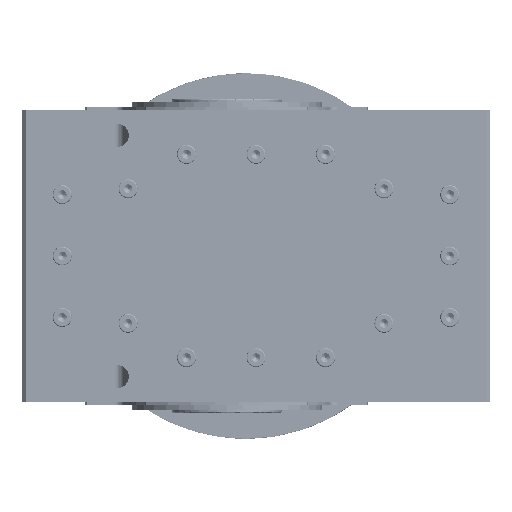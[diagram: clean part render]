
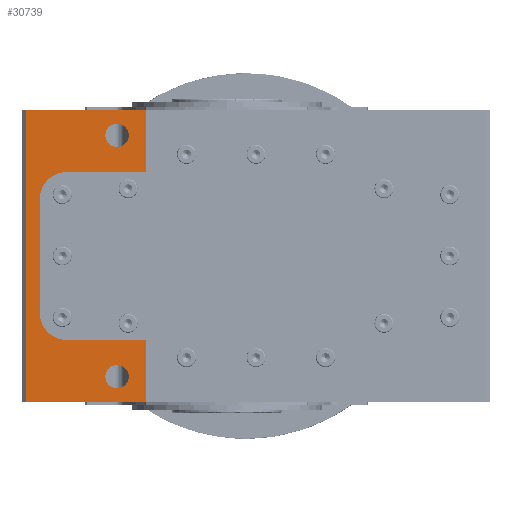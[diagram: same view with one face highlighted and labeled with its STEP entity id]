
A CAD part, left-side view. The second image highlights one B-rep face of the part: STEP entity #30739.
In plain terms, the highlighted planar face has unit normal (-1, 0, 0).
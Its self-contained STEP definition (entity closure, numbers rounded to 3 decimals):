
#18703 = AXIS2_PLACEMENT_3D ( 'NONE', #209336, #209356, #209368 ) ;
#18811 = AXIS2_PLACEMENT_3D ( 'NONE', #208940, #208960, #208965 ) ;
#18821 = AXIS2_PLACEMENT_3D ( 'NONE', #209389, #209398, #209391 ) ;
#18891 = AXIS2_PLACEMENT_3D ( 'NONE', #208956, #208932, #208935 ) ;
#20768 = CARTESIAN_POINT ( 'NONE',  ( -112., 140., 57.5 ) ) ;
#20770 = DIRECTION ( 'NONE',  ( 0., -1., 0. ) ) ;
#22032 = VERTEX_POINT ( 'NONE', #149736 ) ;
#22128 = VERTEX_POINT ( 'NONE', #149752 ) ;
#22141 = VERTEX_POINT ( 'NONE', #149721 ) ;
#22215 = VERTEX_POINT ( 'NONE', #149858 ) ;
#25458 = ORIENTED_EDGE ( 'NONE', *, *, #135957, .T. ) ;
#25489 = ORIENTED_EDGE ( 'NONE', *, *, #136981, .T. ) ;
#25497 = ORIENTED_EDGE ( 'NONE', *, *, #137066, .T. ) ;
#25502 = ORIENTED_EDGE ( 'NONE', *, *, #189936, .T. ) ;
#25510 = ORIENTED_EDGE ( 'NONE', *, *, #136944, .T. ) ;
#25513 = ORIENTED_EDGE ( 'NONE', *, *, #135725, .T. ) ;
#25557 = ORIENTED_EDGE ( 'NONE', *, *, #189900, .T. ) ;
#25588 = ORIENTED_EDGE ( 'NONE', *, *, #136185, .T. ) ;
#25594 = ORIENTED_EDGE ( 'NONE', *, *, #135757, .T. ) ;
#25617 = ORIENTED_EDGE ( 'NONE', *, *, #135836, .T. ) ;
#25630 = ORIENTED_EDGE ( 'NONE', *, *, #135926, .T. ) ;
#25651 = ORIENTED_EDGE ( 'NONE', *, *, #135182, .T. ) ;
#25825 = ORIENTED_EDGE ( 'NONE', *, *, #135986, .T. ) ;
#25833 = ORIENTED_EDGE ( 'NONE', *, *, #135870, .T. ) ;
#30739 = ADVANCED_FACE ( 'NONE', ( #86351, #84781, #86329 ), #96148, .T. ) ;
#78074 = DIRECTION ( 'NONE',  ( 1., 0., 0. ) ) ;
#78121 = CARTESIAN_POINT ( 'NONE',  ( -112., 75., 82.5 ) ) ;
#78122 = DIRECTION ( 'NONE',  ( 0., 0., 1. ) ) ;
#78154 = DIRECTION ( 'NONE',  ( 1., 0., 0. ) ) ;
#78161 = CARTESIAN_POINT ( 'NONE',  ( -112., 75., -82.5 ) ) ;
#78248 = DIRECTION ( 'NONE',  ( 0., 0., 1. ) ) ;
#84781 = FACE_BOUND ( 'NONE', #129297, .T. ) ;
#86329 = FACE_OUTER_BOUND ( 'NONE', #129381, .T. ) ;
#86351 = FACE_BOUND ( 'NONE', #129247, .T. ) ;
#96092 = DIRECTION ( 'NONE',  ( 0., 0., 1. ) ) ;
#96148 = PLANE ( 'NONE',  #101010 ) ;
#96151 = DIRECTION ( 'NONE',  ( -1., 0., 0. ) ) ;
#96183 = CARTESIAN_POINT ( 'NONE',  ( -112., 140., -100. ) ) ;
#101010 = AXIS2_PLACEMENT_3D ( 'NONE', #96183, #96151, #96092 ) ;
#109664 = CARTESIAN_POINT ( 'NONE',  ( -112., 140., -100. ) ) ;
#109678 = DIRECTION ( 'NONE',  ( 0., 0., 1. ) ) ;
#109724 = CARTESIAN_POINT ( 'NONE',  ( -112., 55., -100. ) ) ;
#109734 = DIRECTION ( 'NONE',  ( 0., -1., 0. ) ) ;
#118686 = VERTEX_POINT ( 'NONE', #181931 ) ;
#118740 = VERTEX_POINT ( 'NONE', #181999 ) ;
#118771 = VERTEX_POINT ( 'NONE', #181933 ) ;
#118980 = VERTEX_POINT ( 'NONE', #182106 ) ;
#118985 = VERTEX_POINT ( 'NONE', #182133 ) ;
#119022 = VERTEX_POINT ( 'NONE', #182159 ) ;
#119145 = VERTEX_POINT ( 'NONE', #182098 ) ;
#119258 = VERTEX_POINT ( 'NONE', #182175 ) ;
#119821 = VERTEX_POINT ( 'NONE', #182495 ) ;
#119964 = VERTEX_POINT ( 'NONE', #182595 ) ;
#129247 = EDGE_LOOP ( 'NONE', ( #25502, #25513 ) ) ;
#129297 = EDGE_LOOP ( 'NONE', ( #25557, #25630 ) ) ;
#129381 = EDGE_LOOP ( 'NONE', ( #25825, #25617, #25651, #25594, #25588, #25497, #25510, #25489, #25458, #25833 ) ) ;
#135182 = EDGE_CURVE ( 'NONE', #118985, #118771, #154155, .T. ) ;
#135725 = EDGE_CURVE ( 'NONE', #22141, #22215, #154518, .T. ) ;
#135757 = EDGE_CURVE ( 'NONE', #118771, #118740, #154557, .T. ) ;
#135836 = EDGE_CURVE ( 'NONE', #119022, #118985, #154696, .T. ) ;
#135870 = EDGE_CURVE ( 'NONE', #118980, #119145, #154658, .T. ) ;
#135926 = EDGE_CURVE ( 'NONE', #22032, #22128, #154591, .T. ) ;
#135957 = EDGE_CURVE ( 'NONE', #118686, #118980, #154677, .T. ) ;
#135986 = EDGE_CURVE ( 'NONE', #119145, #119022, #154739, .T. ) ;
#136185 = EDGE_CURVE ( 'NONE', #118740, #119258, #154826, .T. ) ;
#136944 = EDGE_CURVE ( 'NONE', #119821, #119964, #142554, .T. ) ;
#136981 = EDGE_CURVE ( 'NONE', #119964, #118686, #142638, .T. ) ;
#137066 = EDGE_CURVE ( 'NONE', #119258, #119821, #142882, .T. ) ;
#137396 = DIRECTION ( 'NONE',  ( 0., 0., -1. ) ) ;
#137412 = CARTESIAN_POINT ( 'NONE',  ( -112., 137., -100. ) ) ;
#142488 = VECTOR ( 'NONE', #109678, 1000. ) ;
#142491 = VECTOR ( 'NONE', #109734, 1000. ) ;
#142554 = LINE ( 'NONE', #109664, #142491 ) ;
#142638 = LINE ( 'NONE', #109724, #142488 ) ;
#142660 = VECTOR ( 'NONE', #137396, 1000. ) ;
#142882 = LINE ( 'NONE', #137412, #142660 ) ;
#149721 = CARTESIAN_POINT ( 'NONE',  ( -112., 75., -90.5 ) ) ;
#149736 = CARTESIAN_POINT ( 'NONE',  ( -112., 75., 74.5 ) ) ;
#149752 = CARTESIAN_POINT ( 'NONE',  ( -112., 75., 90.5 ) ) ;
#149858 = CARTESIAN_POINT ( 'NONE',  ( -112., 75., -74.5 ) ) ;
#154155 = LINE ( 'NONE', #20768, #154215 ) ;
#154215 = VECTOR ( 'NONE', #20770, 1000. ) ;
#154514 = VECTOR ( 'NONE', #209345, 1000. ) ;
#154518 = CIRCLE ( 'NONE', #18703, 8. ) ;
#154557 = LINE ( 'NONE', #209339, #154514 ) ;
#154591 = CIRCLE ( 'NONE', #18891, 8. ) ;
#154639 = VECTOR ( 'NONE', #209030, 1000. ) ;
#154658 = CIRCLE ( 'NONE', #18811, 19. ) ;
#154677 = LINE ( 'NONE', #209028, #154639 ) ;
#154696 = CIRCLE ( 'NONE', #18821, 19. ) ;
#154715 = VECTOR ( 'NONE', #209003, 1000. ) ;
#154739 = LINE ( 'NONE', #209000, #154715 ) ;
#154826 = LINE ( 'NONE', #209135, #154910 ) ;
#154910 = VECTOR ( 'NONE', #209143, 1000. ) ;
#164340 = CIRCLE ( 'NONE', #187903, 8. ) ;
#164445 = CIRCLE ( 'NONE', #187911, 8. ) ;
#181931 = CARTESIAN_POINT ( 'NONE',  ( -112., 55., -57.5 ) ) ;
#181933 = CARTESIAN_POINT ( 'NONE',  ( -112., 55., 57.5 ) ) ;
#181999 = CARTESIAN_POINT ( 'NONE',  ( -112., 55., 100. ) ) ;
#182098 = CARTESIAN_POINT ( 'NONE',  ( -112., 128., -38.5 ) ) ;
#182106 = CARTESIAN_POINT ( 'NONE',  ( -112., 109., -57.5 ) ) ;
#182133 = CARTESIAN_POINT ( 'NONE',  ( -112., 109., 57.5 ) ) ;
#182159 = CARTESIAN_POINT ( 'NONE',  ( -112., 128., 38.5 ) ) ;
#182175 = CARTESIAN_POINT ( 'NONE',  ( -112., 137., 100. ) ) ;
#182495 = CARTESIAN_POINT ( 'NONE',  ( -112., 137., -100. ) ) ;
#182595 = CARTESIAN_POINT ( 'NONE',  ( -112., 55., -100. ) ) ;
#187903 = AXIS2_PLACEMENT_3D ( 'NONE', #78121, #78074, #78122 ) ;
#187911 = AXIS2_PLACEMENT_3D ( 'NONE', #78161, #78154, #78248 ) ;
#189900 = EDGE_CURVE ( 'NONE', #22128, #22032, #164340, .T. ) ;
#189936 = EDGE_CURVE ( 'NONE', #22215, #22141, #164445, .T. ) ;
#208932 = DIRECTION ( 'NONE',  ( 1., 0., 0. ) ) ;
#208935 = DIRECTION ( 'NONE',  ( 0., 0., 1. ) ) ;
#208940 = CARTESIAN_POINT ( 'NONE',  ( -112., 109., -38.5 ) ) ;
#208956 = CARTESIAN_POINT ( 'NONE',  ( -112., 75., 82.5 ) ) ;
#208960 = DIRECTION ( 'NONE',  ( 1., 0., 0. ) ) ;
#208965 = DIRECTION ( 'NONE',  ( 0., 0., 1. ) ) ;
#209000 = CARTESIAN_POINT ( 'NONE',  ( -112., 128., -100. ) ) ;
#209003 = DIRECTION ( 'NONE',  ( 0., 0., 1. ) ) ;
#209028 = CARTESIAN_POINT ( 'NONE',  ( -112., 140., -57.5 ) ) ;
#209030 = DIRECTION ( 'NONE',  ( 0., 1., 0. ) ) ;
#209135 = CARTESIAN_POINT ( 'NONE',  ( -112., 140., 100. ) ) ;
#209143 = DIRECTION ( 'NONE',  ( 0., 1., 0. ) ) ;
#209336 = CARTESIAN_POINT ( 'NONE',  ( -112., 75., -82.5 ) ) ;
#209339 = CARTESIAN_POINT ( 'NONE',  ( -112., 55., -100. ) ) ;
#209345 = DIRECTION ( 'NONE',  ( 0., 0., 1. ) ) ;
#209356 = DIRECTION ( 'NONE',  ( 1., 0., 0. ) ) ;
#209368 = DIRECTION ( 'NONE',  ( 0., 0., 1. ) ) ;
#209389 = CARTESIAN_POINT ( 'NONE',  ( -112., 109., 38.5 ) ) ;
#209391 = DIRECTION ( 'NONE',  ( 0., 0., 1. ) ) ;
#209398 = DIRECTION ( 'NONE',  ( 1., 0., 0. ) ) ;
